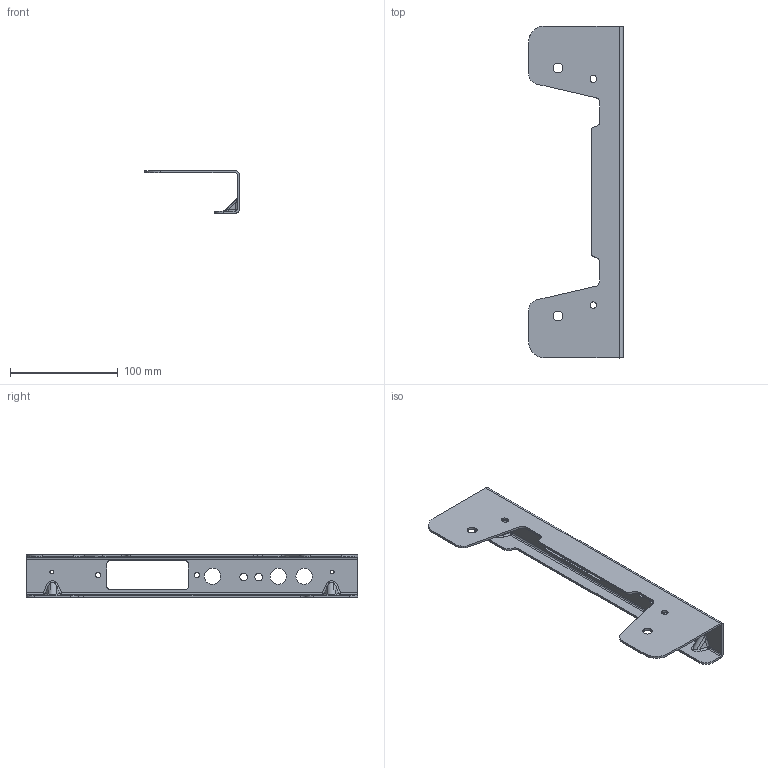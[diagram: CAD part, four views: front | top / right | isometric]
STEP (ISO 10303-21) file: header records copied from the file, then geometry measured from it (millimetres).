
FILE_DESCRIPTION(('CATIA V5 STEP Exchange'),'2;1');
FILE_NAME('E:\吉利商用车G3\07问题清单\ECR0009703-G3钣金件开模数据问题变更\数据图纸\SHT0015290 高配后支撑钣金\SHT0015290.stp','2023-10-08T04:00:32+00:00',('none'),('none'),'CATIA Version 5 Release 20 GA (IN-10)','CATIA V5 STEP AP214','none');
FILE_SCHEMA(('AUTOMOTIVE_DESIGN { 1 0 10303 214 1 1 1 1 }'));
Length unit declared in the file: millimetre
Products named in the file (1): Part60
Bounding box: 88 x 308 x 39.5 mm (x, y, z)
Volume: 55865.8 mm3; surface area: 58933.5 mm2
Topology: 1 solids, 1 shells, 148 faces, 406 edges, 240 vertices
Faces by surface type: cylinder 86, plane 34, sphere 20, bspline 8
Entity records: 6208 total; most frequent: CARTESIAN_POINT 2814, ORIENTED_EDGE 772, DIRECTION 536, EDGE_CURVE 386, VERTEX_POINT 240, AXIS2_PLACEMENT_3D 235, EDGE_LOOP 176, VECTOR 170
